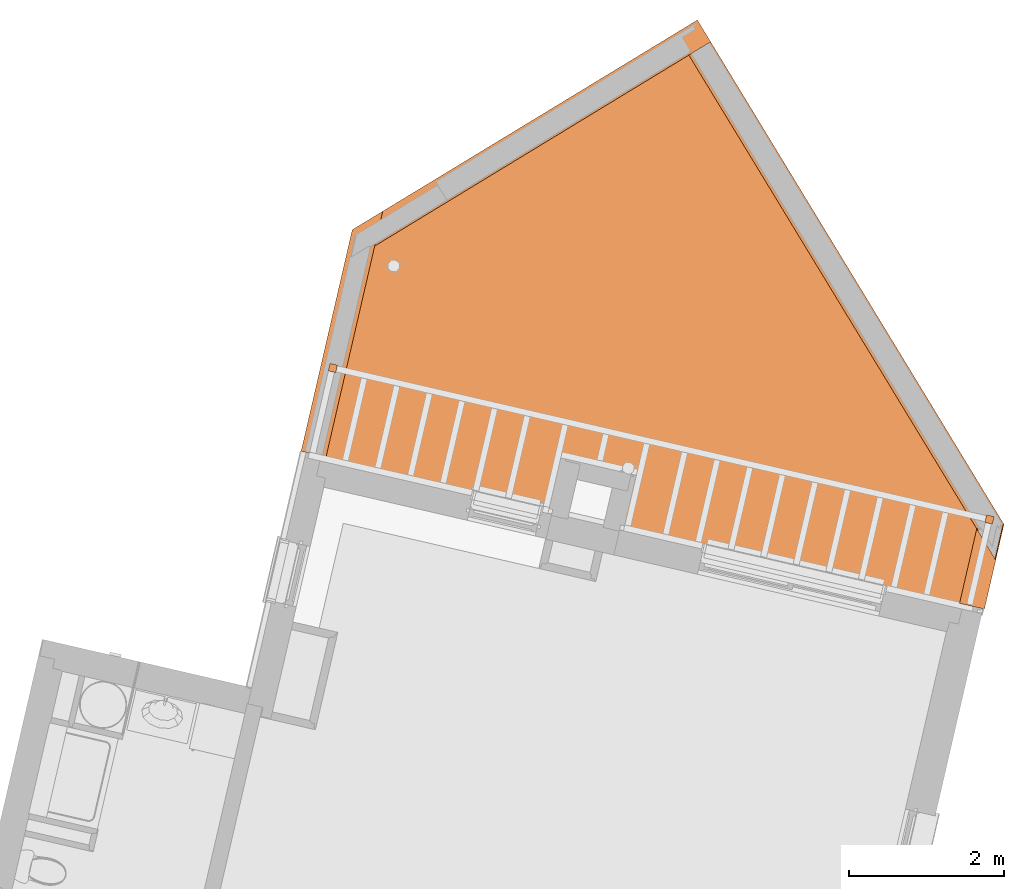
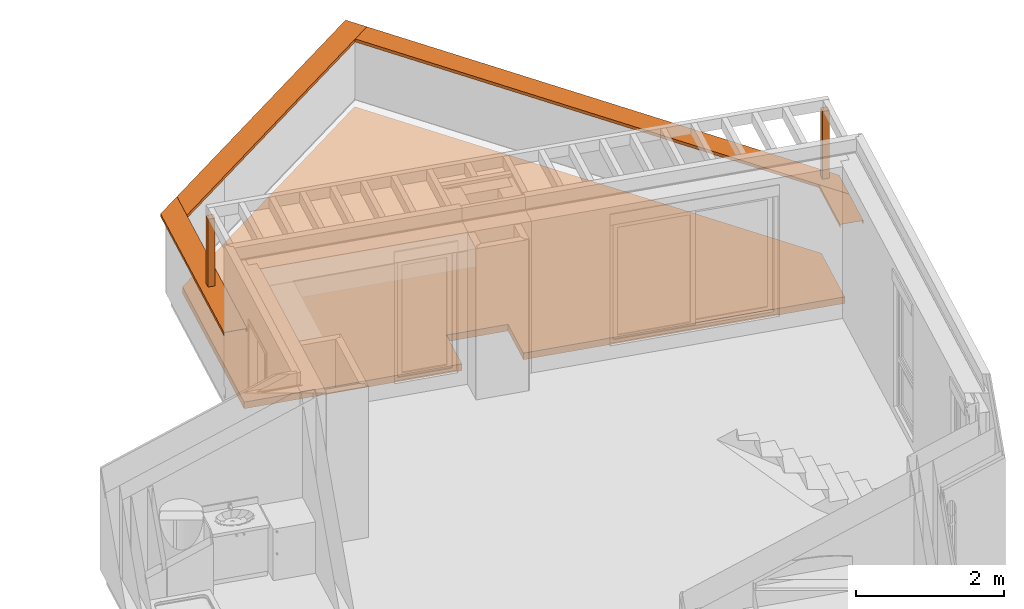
# One storey, part 62 of 62: 7 proxies.
"""IFC2X3 building model written with IfcOpenShell, lengths in metres."""

from ifc_helpers import new_model, entity, si_unit, converted_unit, derived_unit, money_unit, direction, frame, origin_with_axes, place, context, subcontext, project, spatial, faceted_brep, material, material_list, type_object, element, save


model = new_model("IFC2X3")

# Units and contexts
model_context = context("Model", 3, precision=1e-05, world=origin_with_axes(), true_north=direction((0.0, 1.0)))
body_context = subcontext(model_context, "Body", "Model", "MODEL_VIEW")
ifc_project = project(units=[si_unit("LENGTHUNIT", "METRE"), si_unit("AREAUNIT", "SQUARE_METRE"), si_unit("VOLUMEUNIT", "CUBIC_METRE"), converted_unit("PLANEANGLEUNIT", "DEGREE", entity("IfcPlaneAngleMeasure", 0.0174532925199), si_unit("PLANEANGLEUNIT", "RADIAN"), dimensions=[0, 0, 0, 0, 0, 0, 0]), si_unit("SOLIDANGLEUNIT", "STERADIAN"), money_unit("EUR"), converted_unit("TIMEUNIT", "Year", entity("IfcTimeMeasure", 31556926.0), si_unit("TIMEUNIT", "SECOND"), dimensions=[0, 0, 1, 0, 0, 0, 0]), si_unit("MASSUNIT", "GRAM", prefix="KILO"), si_unit("THERMODYNAMICTEMPERATUREUNIT", "DEGREE_CELSIUS"), si_unit("LUMINOUSINTENSITYUNIT", "LUMEN"), si_unit("ENERGYUNIT", "JOULE", prefix="MEGA"), derived_unit("THERMALCONDUCTANCEUNIT", [(si_unit("POWERUNIT", "WATT"), 1), (si_unit("LENGTHUNIT", "METRE"), -1), (si_unit("THERMODYNAMICTEMPERATUREUNIT", "KELVIN"), -1)]), derived_unit("SPECIFICHEATCAPACITYUNIT", [(si_unit("ENERGYUNIT", "JOULE"), 1), (si_unit("MASSUNIT", "GRAM", prefix="KILO"), -1), (si_unit("THERMODYNAMICTEMPERATUREUNIT", "KELVIN"), -1)]), derived_unit("MASSDENSITYUNIT", [(si_unit("MASSUNIT", "GRAM", prefix="KILO"), 1), (si_unit("VOLUMEUNIT", "CUBIC_METRE"), -1)])], contexts=[model_context])

# Site, building, storey
site_placement = place(None, origin_with_axes())
site = spatial("IfcSite", under=ifc_project, at=site_placement, Name="Site", CompositionType="ELEMENT")
building_placement = place(site_placement, origin_with_axes())
building = spatial("IfcBuilding", under=site, at=building_placement, Name="Bâtiment", CompositionType="ELEMENT")
storey_placement = place(building_placement, frame((0.0, 0.0, 8.16), z_axis=(0.0, 0.0, 1.0), x_axis=(1.0, 0.0, 0.0)))
storey = spatial("IfcBuildingStorey", under=building, at=storey_placement, Name="R+3", CompositionType="ELEMENT", Elevation=8.16)

# Proxies
ifc_material_1 = material(Name="Métal - Aluminium")
building_element_proxy_type_1 = type_object("IfcBuildingElementProxyType", Name="Couvertine Métal 330 x 50", PredefinedType="USERDEFINED")
proxy_1_placement = place(storey_placement, frame((-6.79239422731, 17.3818408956, 1.268), z_axis=(0.0, 0.0, 1.0), x_axis=(0.854539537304, 0.519386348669, 0.0)))
element("IfcBuildingElementProxy", 1, at=proxy_1_placement, inside=storey, type_object=building_element_proxy_type_1, material=ifc_material_1, Name="Couvertine métal laqué", ObjectType="CONSTRUCTION ELEMENT", context=body_context, shape_type="Brep", body=[
    faceted_brep([(0.0943665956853, 0.330000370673, -0.0442531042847), (0.0922884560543, 0.327869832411, -0.0442531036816), (0.0922884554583, 0.327869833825, -0.0399754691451), (0.09436659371, 0.330000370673, -0.0399754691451), (0.099714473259, 0.330000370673, -0.0442531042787), (0.0976363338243, 0.327869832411, -0.0442531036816), (5.30403229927, 0.327869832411, -0.0442531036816), (5.30616283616, 0.327869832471, -0.0442531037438), (5.30616283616, 0.327869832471, 0.0), (0.550300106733, 0.327869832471, 0.0), (0.0922884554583, 0.327869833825, -7.01549041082e-10), (0.09436659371, 0.330000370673, -7.01549041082e-10), (0.552378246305, 0.330000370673, 0.0), (0.552378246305, 0.330000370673, 0.002), (5.30616283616, 0.330000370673, 0.00200000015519), (5.30616283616, 0.330000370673, -0.048), (0.0913903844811, 0.330000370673, -0.048), (0.0939021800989, 0.324041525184, -0.0442531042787), (0.0993899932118, 0.323709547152, -0.0416371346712), (0.0951560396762, 0.321066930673, -0.0399754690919), (5.29722940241, 0.321066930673, -0.0399754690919), (5.30403229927, 0.324041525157, -0.0442531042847), (5.30616283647, 0.324041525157, -0.0442531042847), (5.30616283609, -3.70672619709e-07, 0.00200000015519), (5.3061628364, -3.70672626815e-07, -7.01549041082e-10), (5.30616283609, 0.00213016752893, 0.0), (4.97829279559, 0.00213016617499, -7.01549041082e-10), (0.232571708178, 0.00213016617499, -7.01549041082e-10), (5.30403230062, 0.00213016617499, -7.01549041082e-10), (0.230493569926, -3.70672623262e-07, -7.01549041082e-10), (0.230493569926, -3.70672619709e-07, 0.002), (5.29987201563, 0.319881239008, -0.0416371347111), (0.0956558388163, 0.319881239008, -0.0416371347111), (0.230493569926, -3.70672623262e-07, -0.0399754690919), (0.230493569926, -3.70672626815e-07, -0.0442531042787), (0.230493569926, -3.70672623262e-07, -0.048), (4.97616225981, -3.70672623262e-07, -0.048), (4.98212109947, -3.70672623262e-07, -0.0442531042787), (4.97829279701, -3.70672623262e-07, -0.0442531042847), (4.97829279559, -3.70672626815e-07, -0.0399754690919), (4.97829279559, -3.70672626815e-07, -7.01549041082e-10), (5.30403230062, -3.70672623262e-07, -7.01549041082e-10), (4.97829279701, 0.00213016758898, -0.0442531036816), (0.232571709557, 0.00213016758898, -0.0442531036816), (0.232571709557, 0.00213016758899, -0.0399754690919), (4.97829279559, 0.00213016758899, -0.0399754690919), (0.236305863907, 0.00595847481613, -0.0442531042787), (0.233329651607, 0.00595847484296, -0.0442531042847), (0.23157599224, 0.010118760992, -0.0416371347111), (4.98628138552, 0.010118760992, -0.0416371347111), (4.98212109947, 0.00595847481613, -0.0442531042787), (4.98212110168, 0.00213016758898, -0.0442531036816), (4.98509569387, 0.00893306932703, -0.0399754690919), (0.226727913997, 0.00893306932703, -0.0399754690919), (0.229595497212, 0.00213016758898, -0.0442531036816), (4.98628138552, 0.00629045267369, -0.0416371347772)], [[[0, 1, 2, 3]], [[4, 5, 1, 0]], [[2, 1, 5, 6, 7, 8, 9, 10]], [[2, 10, 11, 3]], [[4, 0, 3, 11, 12, 13, 14, 15, 16]], [[16, 17, 5, 4]], [[5, 18, 19, 20, 6]], [[21, 22, 7, 6]], [[14, 23, 24, 25, 8, 7, 22, 15]], [[26, 27, 9, 8, 25, 28]], [[12, 11, 10, 9]], [[27, 29, 30, 13, 12, 9]], [[14, 13, 30, 23]], [[31, 32, 17, 16, 15, 22, 21]], [[5, 17, 32, 18]], [[18, 32, 19]], [[20, 19, 32, 31]], [[31, 21, 6, 20]], [[33, 34, 35, 36, 37, 38, 39, 40, 41, 24, 23, 30, 29]], [[25, 24, 41, 28]], [[42, 43, 44, 27, 26, 45]], [[41, 40, 26, 28]], [[44, 33, 29, 27]], [[43, 34, 33, 44]], [[46, 35, 34, 43]], [[46, 47, 48, 49, 50, 36, 35]], [[51, 37, 36, 50]], [[42, 38, 37, 51]], [[39, 38, 42, 45]], [[40, 39, 45, 26]], [[52, 53, 54, 43, 42, 51, 55]], [[43, 54, 47, 46]], [[48, 47, 54, 53]], [[49, 48, 53, 52]], [[55, 51, 50, 49]], [[49, 52, 55]]]),
])
proxy_2_placement = place(storey_placement, frame((-2.25806853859, 20.1377892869, 1.268), z_axis=(0.0, 0.0, 1.0), x_axis=(0.519386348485, -0.854539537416, 0.0)))
element("IfcBuildingElementProxy", 2, at=proxy_2_placement, inside=storey, type_object=building_element_proxy_type_1, material=ifc_material_1, Name="Couvertine métal laqué", ObjectType="CONSTRUCTION ELEMENT", context=body_context, shape_type="Brep", body=[
    faceted_brep([(7.15634063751, -0.330000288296, -0.048), (3.70938277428e-07, -0.330000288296, -0.048), (3.7074221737e-07, -0.324041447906, -0.0442531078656), (-0.00213016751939, -0.324041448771, -0.0442531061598), (-0.00629045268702, -0.319881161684, -0.0416371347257), (7.16045851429, -0.319881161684, -0.0416371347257), (7.15876552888, -0.324041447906, -0.0442531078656), (3.70743489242e-07, -0.330000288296, -0.0399754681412), (3.70743492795e-07, -0.330000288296, -0.0442531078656), (7.16487462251, -0.330000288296, -0.0442531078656), (7.15939189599, -0.330000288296, -0.0442531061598), (7.15939189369, -0.330000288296, -0.0399754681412), (7.15939189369, -0.330000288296, 1.20625287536e-09), (7.62590115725, -0.330000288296, 1.20625287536e-09), (7.62895241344, -0.330000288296, 1.20625287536e-09), (7.62895241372, -0.330000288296, 0.0019999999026), (3.70743489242e-07, -0.330000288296, 0.00199999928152), (3.70743492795e-07, -0.330000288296, 1.20625287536e-09), (3.70743034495e-07, -0.327869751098, -0.0442531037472), (-0.00213016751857, -0.327869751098, -0.0442531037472), (-0.00893306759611, -0.321066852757, -0.0399754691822), (7.15997600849, -0.321066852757, -0.0399754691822), (7.1643833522, -0.323709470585, -0.041637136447), (7.1626903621, -0.327869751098, -0.0442531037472), (3.70743034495e-07, -0.327869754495, -0.0399754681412), (7.157207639, -0.327869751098, -0.0442531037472), (7.15720764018, -0.327869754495, -0.0399754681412), (7.15720764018, -0.327869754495, 1.20625287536e-09), (7.62371690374, -0.327869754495, 1.20625287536e-09), (7.62676815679, -0.327869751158, 0.0), (7.292815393, -0.00213024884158, 0.0), (7.292815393, -0.00213024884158, -0.0442531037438), (7.29674022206, -0.00595855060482, -0.0442531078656), (7.29063113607, 2.88296305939e-07, -0.048), (7.29063113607, 2.88296302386e-07, 0.0019999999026), (3.70672619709e-07, 2.88296304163e-07, 0.00199999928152), (3.7067307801e-07, -0.00213024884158, 0.0), (3.70743034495e-07, -0.327869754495, 1.20625287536e-09), (3.70672619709e-07, 2.88296304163e-07, -2.94081203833e-10), (-0.327869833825, -0.00213024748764, 2.722817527e-10), (-0.327869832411, -0.00213024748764, -0.0399754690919), (-0.327869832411, -0.00213024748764, -0.0442531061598), (-0.324041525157, -0.00213024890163, -0.0442531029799), (7.28976413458, -0.00213024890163, -0.0442531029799), (7.29368896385, -0.00595855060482, -0.0442531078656), (7.29199598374, -0.010118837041, -0.0416371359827), (-0.319881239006, -0.010118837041, -0.0416371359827), (-0.324041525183, -0.0059585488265, -0.0442531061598), (-0.330000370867, 2.88296305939e-07, -0.048), (-0.327869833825, 2.88296307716e-07, -7.01549041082e-10), (-0.324041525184, 2.88296305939e-07, -0.0442531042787), (-0.327869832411, 2.88296309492e-07, -0.0442531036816), (-0.327869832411, 2.88296309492e-07, -0.0399754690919), (-0.319881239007, -0.0062905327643, -0.0416371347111), (-0.321066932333, -0.00893314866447, -0.0399754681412), (7.28699576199, -0.00893314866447, -0.0399754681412)], [[[0, 1, 2, 3, 4, 5, 6]], [[7, 8, 1, 0, 9, 10, 11, 12, 13, 14, 15, 16, 17]], [[2, 1, 8, 18]], [[3, 2, 18, 19]], [[4, 3, 19, 20]], [[5, 4, 20, 21]], [[5, 22, 23, 6]], [[23, 9, 0, 6]], [[24, 18, 8, 7]], [[25, 10, 9, 23]], [[26, 11, 10, 25]], [[27, 12, 11, 26]], [[13, 12, 27, 28]], [[14, 13, 28, 29]], [[15, 14, 29, 30, 31, 32, 33, 34]], [[35, 16, 15, 34]], [[36, 37, 17, 16, 35, 38]], [[7, 17, 37, 24]], [[20, 19, 18, 25, 23, 22, 21]], [[5, 21, 22]], [[25, 18, 24, 37, 27, 26]], [[28, 27, 37, 36, 30, 29]], [[30, 36, 39, 40, 41, 42, 43, 31]], [[43, 44, 32, 31]], [[45, 46, 47, 48, 33, 32, 44]], [[49, 38, 35, 34, 33, 48, 50, 51, 52]], [[49, 39, 36, 38]], [[52, 40, 39, 49]], [[51, 41, 40, 52]], [[50, 42, 41, 51]], [[42, 53, 54, 55, 43]], [[55, 45, 44, 43]], [[55, 54, 46, 45]], [[42, 47, 46, 53]], [[48, 47, 42, 50]], [[53, 46, 54]]]),
])
proxy_3_placement = place(storey_placement, frame((-7.38424518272, 14.8173539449, 1.268), z_axis=(0.0, 0.0, 1.0), x_axis=(0.22487619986, 0.974387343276, 0.0)))
element("IfcBuildingElementProxy", 3, at=proxy_3_placement, inside=storey, type_object=building_element_proxy_type_1, material=ifc_material_1, Name="Couvertine métal laqué", ObjectType="CONSTRUCTION ELEMENT", context=body_context, shape_type="Brep", body=[
    faceted_brep([(2.93104437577, 0.162869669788, -0.0442531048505), (0.0, 0.162869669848, -0.0442531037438), (0.0, 0.156066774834, -0.0399754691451), (2.92817677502, 0.156066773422, -0.0399754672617), (2.93402058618, 0.162869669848, 0.0), (0.0, 0.162869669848, 0.0), (2.93402058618, 0.162869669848, -0.0442531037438), (0.0, -0.156066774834, -0.0399754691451), (0.0, -0.154881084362, -0.0416371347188), (0.0, -0.165000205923, -0.048), (0.0, -0.165000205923, 0.002), (0.0, 0.165000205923, 0.002), (0.0, 0.165000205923, -0.048), (0.0, 0.154881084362, -0.0416371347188), (0.0, -0.162869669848, 0.0), (0.0, -0.162869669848, -0.0442531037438), (2.93302484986, 0.154881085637, -0.0416371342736), (2.9347785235, 0.159041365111, -0.0442531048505), (2.79373655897, -0.162869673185, -3.21436033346e-09), (3.25174866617, -0.162869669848, 0.0), (3.24877245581, -0.162869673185, -3.21436033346e-09), (2.93775473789, 0.159041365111, -0.0442531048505), (2.93194244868, 0.165000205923, -0.048), (2.93194244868, 0.165000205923, 0.00199999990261), (3.25382680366, -0.165000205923, 0.00199999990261), (3.25382680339, -0.165000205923, -3.21436033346e-09), (2.79710396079, -0.154881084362, -0.0416371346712), (2.7966041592, -0.156066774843, -0.0399754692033), (2.79283847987, -0.165000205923, -0.048), (2.7953502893, -0.159041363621, -0.0442531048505), (2.80116257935, -0.165000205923, -0.0442531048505), (2.79581469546, -0.165000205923, -0.0442531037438), (2.79581469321, -0.165000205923, -0.0399754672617), (2.79581469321, -0.165000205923, -3.21436033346e-09), (3.25085059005, -0.165000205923, -3.21436033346e-09), (2.7937365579, -0.162869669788, -0.0442531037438), (2.79373655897, -0.162869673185, -0.0399754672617), (2.7990844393, -0.162869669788, -0.0442531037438), (2.8008381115, -0.158709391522, -0.041637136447)], [[[0, 1, 2, 3]], [[4, 5, 1, 0, 6]], [[7, 8, 9, 10, 11, 12, 13, 2, 1, 5, 14, 15]], [[3, 2, 13, 16]], [[16, 17, 0, 3]], [[18, 14, 5, 4, 19, 20]], [[21, 6, 0, 17]], [[21, 22, 23, 24, 25, 19, 4, 6]], [[26, 8, 7, 27]], [[28, 9, 8, 26, 29]], [[24, 10, 9, 28, 30, 31, 32, 33, 34, 25]], [[23, 11, 10, 24]], [[22, 12, 11, 23]], [[16, 13, 12, 22, 21, 17]], [[35, 15, 14, 18, 36]], [[27, 7, 15, 35, 37, 38]], [[25, 34, 20, 19]], [[34, 33, 18, 20]], [[38, 26, 27]], [[38, 37, 29, 26]], [[28, 29, 37, 30]], [[30, 37, 35, 31]], [[31, 35, 36, 32]], [[32, 36, 18, 33]]]),
])
proxy_4_placement = place(storey_placement, frame((1.27642690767, 12.8150545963, 1.268), z_axis=(0.0, 0.0, 1.0), x_axis=(0.224876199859, 0.974387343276, 0.0)))
element("IfcBuildingElementProxy", 4, at=proxy_4_placement, inside=storey, type_object=building_element_proxy_type_1, material=ifc_material_1, Name="Couvertine métal laqué", ObjectType="CONSTRUCTION ELEMENT", context=body_context, shape_type="Brep", body=[
    faceted_brep([(0.985667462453, 0.319881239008, -0.0416371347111), (0.0, 0.319881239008, -0.0416371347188), (0.0, 0.330000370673, -0.048), (0.987032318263, 0.330000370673, -0.048), (0.980923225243, 0.324041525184, -0.0442531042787), (0.983974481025, 0.324041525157, -0.0442531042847), (0.990667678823, 0.321066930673, -0.0399754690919), (0.0, 0.321066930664, -0.0399754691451), (0.0, 0.330000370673, 0.002), (0.0, 0.327869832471, -0.0442531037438), (0.0, 0.327869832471, 0.0), (0.0, 0.00213016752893, 0.0), (0.0, 0.00213016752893, -0.0442531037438), (0.0, 0.00893306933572, -0.0399754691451), (0.0, 0.010118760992, -0.0416371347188), (0.0, -3.70672625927e-07, -0.048), (0.0, -3.70672621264e-07, 0.002), (0.987032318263, 0.330000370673, 0.002), (0.987032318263, 0.330000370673, -7.01549041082e-10), (0.987032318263, 0.330000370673, -0.0399754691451), (0.987032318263, 0.330000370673, -0.0442531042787), (0.98484806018, 0.327869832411, -0.0442531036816), (0.987899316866, 0.327869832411, -0.0442531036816), (0.98484806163, 0.327869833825, -7.01549041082e-10), (0.98484806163, 0.327869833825, -0.0399754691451), (0.650895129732, 0.00213016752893, 0.0), (1.11497269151, 0.00213016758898, -0.0442531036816), (1.12045541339, 0.00213016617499, -7.01549041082e-10), (1.12045541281, 0.00213016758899, -0.0399754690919), (1.1204554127, 0.00213016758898, -0.0442531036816), (1.11768704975, 0.00893306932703, -0.0399754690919), (1.11327970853, 0.00629045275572, -0.0416371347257), (1.11720454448, 0.010118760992, -0.0416371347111), (1.12132241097, -3.70672625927e-07, -0.048), (1.11889752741, 0.00595847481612, -0.0442531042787), (0.648710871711, -3.70672621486e-07, 0.002), (1.11278843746, -3.70672625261e-07, -0.0442531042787), (1.11827115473, -3.70672625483e-07, -0.0442531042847), (1.11827115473, -3.70672625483e-07, -0.0399754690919), (1.11827115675, -3.70672624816e-07, -7.01549041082e-10), (0.648710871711, -3.7067262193e-07, 0.0)], [[[0, 1, 2, 3, 4, 5]], [[6, 7, 1, 0]], [[8, 2, 1, 7, 9, 10, 11, 12, 13, 14, 15, 16]], [[3, 2, 8, 17, 18, 19, 20]], [[4, 3, 20, 21]], [[5, 4, 21, 22]], [[0, 5, 22, 6]], [[21, 9, 7, 6, 22]], [[23, 10, 9, 21, 24]], [[11, 10, 23, 25]], [[26, 12, 11, 25, 27, 28, 29]], [[30, 13, 12, 26, 31]], [[32, 14, 13, 30]], [[33, 15, 14, 32, 34]], [[35, 16, 15, 33, 36, 37, 38, 39, 40]], [[35, 17, 8, 16]], [[25, 23, 18, 17, 35, 40]], [[23, 24, 19, 18]], [[24, 21, 20, 19]], [[27, 25, 40, 39]], [[39, 38, 28, 27]], [[38, 37, 29, 28]], [[37, 36, 26, 29]], [[32, 31, 26, 34]], [[30, 31, 32]], [[33, 34, 26, 36]]]),
])
ifc_material_2 = material(Name="Etanchéité - Bitume")
ifc_material_3 = material(Name="Isolation - Polyuréthane (extérieur)")
ifc_material_list = material_list([ifc_material_2, ifc_material_3])
building_element_proxy_type_2 = type_object("IfcBuildingElementProxyType", Name="6 - Isolation sur terrasse sous dalle béton 110", PredefinedType="NOTDEFINED")
proxy_5_placement = place(storey_placement, frame((-6.66130149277, 17.5051763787, 0.11), z_axis=(0.0, 0.0, 1.0), x_axis=(1.0, 0.0, 0.0)))
element("IfcBuildingElementProxy", 5, at=proxy_5_placement, inside=storey, type_object=building_element_proxy_type_2, material=ifc_material_list, Name="Dalle_003", context=body_context, shape_type="Brep", body=[
    faceted_brep([(2.35113343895, -3.46751530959, 0.0), (2.35450657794, -3.45289951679, 0.0), (2.36912238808, -3.45627265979, 0.0), (2.52586110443, -2.77712465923, 0.0), (3.37291907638, -2.9726148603, 0.0), (3.21618036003, -3.65176286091, 0.0), (3.23079617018, -3.65513600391, 0.0), (3.22742303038, -3.6697518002, 0.0), (7.64665012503, -4.68965319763, 0.0), (7.88844798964, -3.64194437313, 0.0), (4.14401642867, 2.51871969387, 0.0), (0.989832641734, 0.601617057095, 0.0), (0.990036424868, 0.601281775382, 0.0), (-0.00012325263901, -0.000534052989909, 0.0), (-0.640894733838, -2.77699326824, 0.0), (2.35113343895, -3.46751530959, -0.01), (2.35450657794, -3.45289951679, -0.01), (2.36912238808, -3.45627265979, -0.01), (2.52586110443, -2.77712465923, -0.01), (3.37291907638, -2.9726148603, -0.01), (3.21618036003, -3.65176286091, -0.01), (3.23079617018, -3.65513600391, -0.01), (3.22742303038, -3.6697518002, -0.01), (7.64665012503, -4.68965319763, -0.01), (7.88844798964, -3.64194437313, -0.01), (4.14401642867, 2.51871969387, -0.01), (0.989832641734, 0.601617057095, -0.01), (0.990036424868, 0.601281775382, -0.01), (-0.00012325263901, -0.000534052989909, -0.01), (-0.640894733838, -2.77699326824, -0.01)], [[[0, 1, 2, 3, 4, 5, 6, 7, 8, 9, 10, 11, 12, 13, 14]], [[1, 0, 15, 16]], [[17, 2, 1, 16]], [[2, 17, 18, 3]], [[18, 19, 4, 3]], [[20, 5, 4, 19]], [[6, 5, 20, 21]], [[7, 6, 21, 22]], [[7, 22, 23, 8]], [[23, 24, 9, 8]], [[24, 25, 10, 9]], [[26, 11, 10, 25]], [[12, 11, 26, 27]], [[13, 12, 27, 28]], [[13, 28, 29, 14]], [[15, 0, 14, 29]], [[16, 15, 29, 28, 27, 26, 25, 24, 23, 22, 21, 20, 19, 18, 17]]]),
    faceted_brep([(0.0, 0.0, -0.11), (-0.640894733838, -2.77699326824, -0.11), (-0.640894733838, -2.77699326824, -0.01), (0.0, 0.0, -0.01), (4.14401642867, 2.51871969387, -0.11), (7.88844798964, -3.64194437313, -0.11), (7.64665012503, -4.68965319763, -0.11), (3.21280722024, -3.66637865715, -0.11), (3.37291907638, -2.9726148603, -0.11), (2.52586110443, -2.77712465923, -0.11), (2.36574924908, -3.47088845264, -0.11), (2.36574924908, -3.47088845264, -0.01), (2.52586110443, -2.77712465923, -0.01), (3.37291907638, -2.9726148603, -0.01), (3.21280722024, -3.66637865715, -0.01), (7.64665012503, -4.68965319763, -0.01), (7.88844798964, -3.64194437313, -0.01), (4.14401642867, 2.51871969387, -0.01)], [[[0, 1, 2, 3]], [[0, 4, 5, 6, 7, 8, 9, 10, 1]], [[1, 10, 11, 2]], [[3, 2, 11, 12, 13, 14, 15, 16, 17]], [[4, 0, 3, 17]], [[5, 4, 17, 16]], [[6, 5, 16, 15]], [[7, 6, 15, 14]], [[8, 7, 14, 13]], [[9, 8, 13, 12]], [[10, 9, 12, 11]]]),
])
ifc_material_4 = material(Name="Bois - Massif 01")
building_element_proxy_type_3 = type_object("IfcBuildingElementProxyType", Name="Bois - Massif 01 100 x 100", PredefinedType="NOTDEFINED")
proxy_6_placement = place(storey_placement, frame((1.34149059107, 13.9710493, 1.268), z_axis=(0.0, 0.0, 1.0), x_axis=(0.97438734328, -0.224876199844, 0.0)))
element("IfcBuildingElementProxy", 6, at=proxy_6_placement, inside=storey, type_object=building_element_proxy_type_3, material=ifc_material_4, Name="Poreau bois pergola", context=body_context, shape_type="Brep", body=[
    faceted_brep([(0.05, -0.05, 1.122), (0.05, -0.05, 0.00199999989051), (0.05, 0.05, 0.00199999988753), (0.05, 0.05, 1.122), (-0.05, -0.05, 1.122), (-0.05, -0.05, 0.00199999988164), (-0.05, 0.05, 0.00199999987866), (-0.05, 0.05, 1.122)], [[[0, 1, 2, 3]], [[4, 5, 1, 0]], [[5, 6, 2, 1]], [[3, 2, 6, 7]], [[3, 7, 4, 0]], [[7, 6, 5, 4]]]),
])
proxy_7_placement = place(storey_placement, frame((-7.13540514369, 15.9274089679, 1.27), z_axis=(0.0, 0.0, 1.0), x_axis=(0.97438734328, -0.224876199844, 0.0)))
element("IfcBuildingElementProxy", 7, at=proxy_7_placement, inside=storey, type_object=building_element_proxy_type_3, material=ifc_material_4, Name="Poreau bois pergola", context=body_context, shape_type="Brep", body=[
    faceted_brep([(0.05, -0.05, 1.12), (-0.05, -0.05, 1.12), (-0.05, -0.05, 0.0), (0.05, -0.05, 0.0), (0.05, 0.05, 1.12), (-0.05, 0.05, 1.12), (-0.05, 0.05, 0.0), (0.05, 0.05, 0.0)], [[[0, 1, 2, 3]], [[4, 5, 1, 0]], [[1, 5, 6, 2]], [[7, 3, 2, 6]], [[4, 0, 3, 7]], [[5, 4, 7, 6]]]),
])

save(model, "model.ifc")
